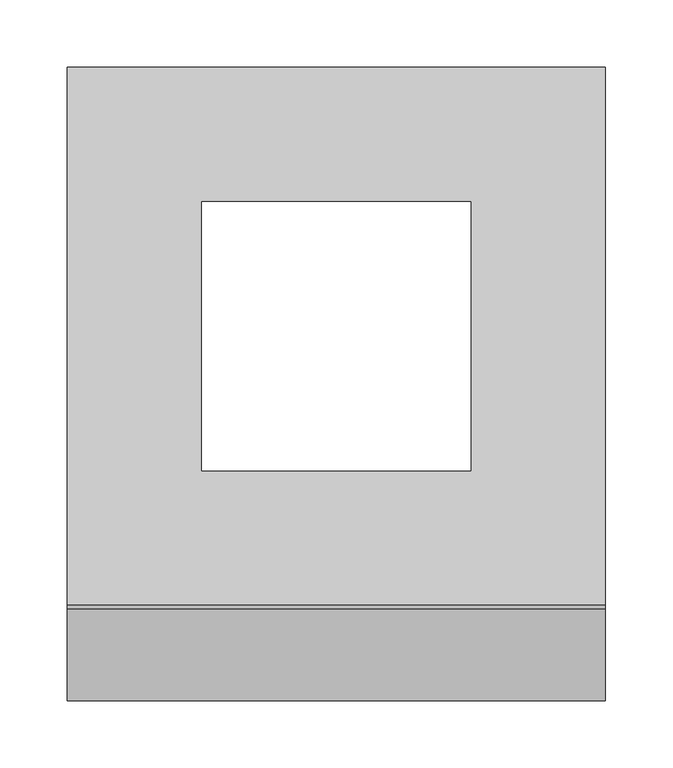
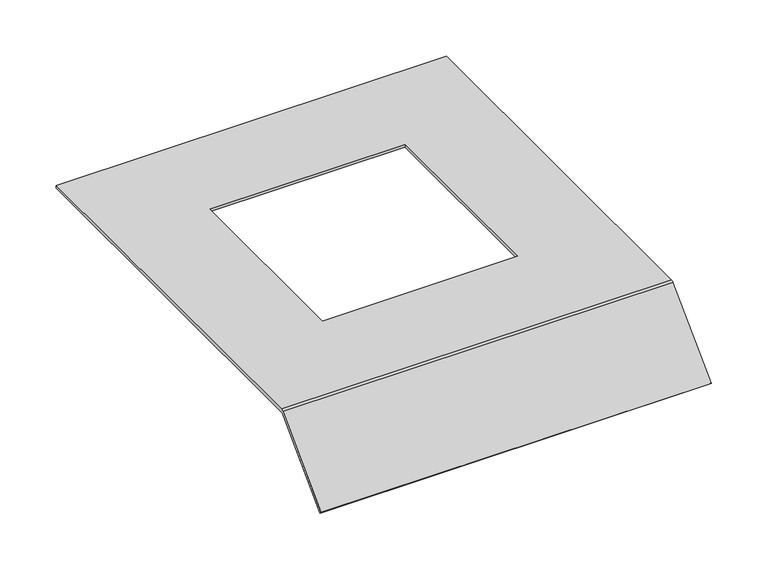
"""IFC4 building model written with IfcOpenShell, lengths in millimetres: proxy geometry, Electrical_Installation_Hager_Covers-With-Installation-Opening-Q06 : Electrical_Installation_Hager_Covers-With-Installation-Opening-Q06."""

import ifcopenshell
import ifcopenshell.guid

model = None  # the IFC model being written
_history = None  # IfcOwnerHistory: only IFC2X3 demands one
_inside = {}  # id of a spatial element -> (the spatial element, [elements in it])
_under = {}  # id of a project, library or spatial element -> (it, [spatial elements below it])
_declared = {}  # id of a project -> (the project, [libraries it declares])
_typed = {}  # id of a type object -> (the type object, [elements of that type])
_made_of = {}  # id of a material, layer set ... -> (it, [elements and type objects made of it])


def new_model(schema):
    """Start an empty IFC model of exactly this schema.

    Asked for "IFC4X3", IfcOpenShell would pick the latest addendum, in which some entities
    have other attributes; the version numbers below select the first issue.
    IFC2X3 requires an IfcOwnerHistory on every rooted entity: one is made here for all.
    """
    global model, _history
    if schema == "IFC4X3":
        model = ifcopenshell.file(schema_version=(4, 3, 0, 0))
    else:
        model = ifcopenshell.file(schema=schema)
    _inside.clear()
    _under.clear()
    _declared.clear()
    _typed.clear()
    _made_of.clear()
    _history = None
    if model.schema == "IFC2X3":
        org = make("IfcOrganization", Name="unknown")
        user = make(
            "IfcPersonAndOrganization",
            ThePerson=make("IfcPerson", FamilyName="unknown"),
            TheOrganization=org,
        )
        app = make(
            "IfcApplication",
            ApplicationDeveloper=org,
            Version="unknown",
            ApplicationFullName="unknown",
            ApplicationIdentifier="unknown",
        )
        _history = make(
            "IfcOwnerHistory",
            OwningUser=user,
            OwningApplication=app,
            ChangeAction="ADDED",
            CreationDate=0,
        )
    return model


def make(cls, **values):
    """One entity of the class cls with the attributes given. An attribute that is None is left unset."""
    return model.create_entity(
        cls, **{name: value for name, value in values.items() if value is not None}
    )


def rooted(cls, **values):
    """An entity with a GlobalId (a new one), such as an element, a storey or a relation."""
    return make(cls, GlobalId=ifcopenshell.guid.new(), OwnerHistory=_history, **values)


def si_unit(unit_type, name, prefix=None):
    """IfcSIUnit, for example si_unit("LENGTHUNIT", "METRE", prefix="MILLI")."""
    return make("IfcSIUnit", UnitType=unit_type, Prefix=prefix, Name=name)


def assignment(units):
    """IfcUnitAssignment: the units of a project."""
    return None if units is None else make("IfcUnitAssignment", Units=units)


def point(xyz):
    """IfcCartesianPoint."""
    return None if xyz is None else make("IfcCartesianPoint", Coordinates=xyz)


def direction(xyz):
    """IfcDirection."""
    return None if xyz is None else make("IfcDirection", DirectionRatios=xyz)


def frame(location, z_axis=None, x_axis=None):
    """IfcAxis2Placement3D, a coordinate frame: its origin and axes. An axis left out is left unset."""
    return make(
        "IfcAxis2Placement3D",
        Location=point(location),
        Axis=direction(z_axis),
        RefDirection=direction(x_axis),
    )


def origin():
    """The frame at (0, 0, 0) with its axes left unset."""
    return frame((0.0, 0.0, 0.0))


def place(relative_to, where):
    """IfcLocalPlacement: puts the frame where relative to a parent placement (None: the world)."""
    return make(
        "IfcLocalPlacement", PlacementRelTo=relative_to, RelativePlacement=where
    )


def context(
    kind, dimensions, precision=None, world=None, true_north=None, identifier=None
):
    """IfcGeometricRepresentationContext, for example the 3D "Model" context."""
    return make(
        "IfcGeometricRepresentationContext",
        ContextIdentifier=identifier,
        ContextType=kind,
        CoordinateSpaceDimension=dimensions,
        Precision=precision,
        WorldCoordinateSystem=world,
        TrueNorth=true_north,
    )


def project(units=None, contexts=None):
    """IfcProject with its units and contexts."""
    return rooted(
        "IfcProject",
        Name="project",
        RepresentationContexts=contexts,
        UnitsInContext=assignment(units),
    )


def spatial(cls, under=None, at=None, **own):
    """A site, building, storey or space (cls), placed at a placement, below another one or the project."""
    s = rooted(cls, ObjectPlacement=at, **own)
    if under is not None:
        _under.setdefault(under.id(), (under, []))[1].append(s)
    return s


def polyline(points):
    """IfcPolyline through the points."""
    return make("IfcPolyline", Points=[point(p) for p in points])


def circle_curve(where, radius):
    """IfcCircle in the frame where."""
    return make("IfcCircle", Position=where, Radius=radius)


def shape(context_of_items, identifier, shape_type, items):
    """IfcShapeRepresentation: the items that make up one representation, for example the "Body"."""
    return make(
        "IfcShapeRepresentation",
        ContextOfItems=context_of_items,
        RepresentationIdentifier=identifier,
        RepresentationType=shape_type,
        Items=items,
    )


def source(mapping_origin, context_of_items, identifier, shape_type, items):
    """IfcRepresentationMap: a shape defined once, which mapped items show again and again."""
    return make(
        "IfcRepresentationMap",
        MappingOrigin=mapping_origin,
        MappedRepresentation=shape(context_of_items, identifier, shape_type, items),
    )


def transform(
    local_origin,
    x_axis=None,
    y_axis=None,
    z_axis=None,
    scale=None,
    scale2=None,
    scale3=None,
    uniform=True,
):
    """IfcCartesianTransformationOperator3D, or its non-uniform kind. x_axis, y_axis, z_axis: its Axis1, 2, 3."""
    if uniform:
        return make(
            "IfcCartesianTransformationOperator3D",
            Axis1=direction(x_axis),
            Axis2=direction(y_axis),
            LocalOrigin=point(local_origin),
            Scale=scale,
            Axis3=direction(z_axis),
        )
    return make(
        "IfcCartesianTransformationOperator3DnonUniform",
        Axis1=direction(x_axis),
        Axis2=direction(y_axis),
        LocalOrigin=point(local_origin),
        Scale=scale,
        Axis3=direction(z_axis),
        Scale2=scale2,
        Scale3=scale3,
    )


def mapped(mapping_source, mapping_target):
    """IfcMappedItem: shows the shape of a source again, moved by a transform."""
    return make(
        "IfcMappedItem", MappingSource=mapping_source, MappingTarget=mapping_target
    )


def made_of(thing, what):
    """Note that an element or type object is made of a material, layer set ...; save() writes the relation."""
    if what is not None:
        _made_of.setdefault(what.id(), (what, []))[1].append(thing)
    return thing


def element(
    cls,
    number,
    at=None,
    inside=None,
    cuts=None,
    type_object=None,
    material=None,
    context=None,
    identifier="Body",
    shape_type=None,
    held_by="IfcProductDefinitionShape",
    body=None,
    shapes=None,
    **own,
):
    """One element of the class cls, such as IfcWall. Its Tag is "e" and its number.

    at: its placement. inside: the storey or other place that contains it. cuts: it is an
    opening in that element (IfcRelVoidsElement). A single representation is given by context,
    identifier, shape_type and body (its items); several are given by shapes. held_by: the class
    of the entity that holds the representations. save() writes the other relations.
    """
    e = rooted(cls, Tag="e%d" % number, ObjectPlacement=at, **own)
    if body is not None:
        shapes = [shape(context, identifier, shape_type, body)]
    if shapes is not None:
        e.Representation = make(held_by, Representations=shapes)
    if inside is not None:
        _inside.setdefault(inside.id(), (inside, []))[1].append(e)
    if cuts is not None:
        rooted(
            "IfcRelVoidsElement", RelatingBuildingElement=cuts, RelatedOpeningElement=e
        )
    if type_object is not None:
        _typed.setdefault(type_object.id(), (type_object, []))[1].append(e)
    return made_of(e, material)


def aggregate(whole, parts):
    """IfcRelAggregates: a whole, such as a stair, and the parts it consists of."""
    return rooted("IfcRelAggregates", RelatingObject=whole, RelatedObjects=parts)


def save(model, path):
    """Write the relations noted so far, then the file.

    IfcRelAggregates (storeys below a building ...), IfcRelContainedInSpatialStructure (elements
    in a storey), IfcRelDefinesByType, IfcRelAssociatesMaterial and IfcRelDeclares: one each for
    every whole, place, type object, material and project.
    """
    for whole, parts in _under.values():
        aggregate(whole, parts)
    for where, things in _inside.values():
        rooted(
            "IfcRelContainedInSpatialStructure",
            RelatedElements=things,
            RelatingStructure=where,
        )
    for kind, things in _typed.values():
        rooted("IfcRelDefinesByType", RelatedObjects=things, RelatingType=kind)
    for what, things in _made_of.values():
        rooted("IfcRelAssociatesMaterial", RelatedObjects=things, RelatingMaterial=what)
    for by, libraries in _declared.values():
        rooted("IfcRelDeclares", RelatingContext=by, RelatedDefinitions=libraries)
    model.write(path)


def plane_surface(at):
    """IfcPlane: the flat surface through the origin of the frame at, square to its z axis."""
    return make("IfcPlane", Position=at)


def cylinder_surface(at, radius):
    """IfcCylindricalSurface: all points at the distance radius from the z axis of the frame at."""
    return make("IfcCylindricalSurface", Position=at, Radius=radius)


def revolved_surface(curve, axis_point, axis_direction):
    """IfcSurfaceOfRevolution: the curve turned about the line through axis_point along axis_direction."""
    return make(
        "IfcSurfaceOfRevolution",
        SweptCurve=make("IfcArbitraryOpenProfileDef", ProfileType="CURVE", Curve=curve),
        AxisPosition=make("IfcAxis1Placement", Location=point(axis_point), Axis=direction(axis_direction)),
    )


def advanced_brep(points, edges, surfaces, faces):
    """IfcAdvancedBrep: a solid bounded by faces that lie on surfaces and meet in shared edges.

    An edge is (start, end): straight between two places in points (the first is 0);
    or (start, end, curve); or (start, end, curve, False) where it runs against its curve.
    A face is (place in surfaces, loops), or (place, loops, False) where it looks against
    its surface's normal. A loop lists edges by number (the first is 1), with a minus sign
    where the edge is run from its end to its start. The first loop is the outer one.
    """
    corners = [point(p) for p in points]
    vertices = [make("IfcVertexPoint", VertexGeometry=c) for c in corners]
    made = []
    for start, end, *more in edges:
        made.append(
            make(
                "IfcEdgeCurve",
                EdgeStart=vertices[start],
                EdgeEnd=vertices[end],
                EdgeGeometry=more[0] if more else make("IfcPolyline", Points=[corners[start], corners[end]]),
                SameSense=more[1] if len(more) > 1 else True,
            )
        )
    hull = []
    for where, loops, *sense in faces:
        bounds = []
        for j, loop in enumerate(loops):
            ring = [make("IfcOrientedEdge", EdgeElement=made[abs(k) - 1], Orientation=k > 0) for k in loop]
            bounds.append(
                make(
                    "IfcFaceOuterBound" if j == 0 else "IfcFaceBound",
                    Bound=make("IfcEdgeLoop", EdgeList=ring),
                    Orientation=True,
                )
            )
        hull.append(make("IfcAdvancedFace", Bounds=bounds, FaceSurface=surfaces[where], SameSense=sense[0] if sense else True))
    return make("IfcAdvancedBrep", Outer=make("IfcClosedShell", CfsFaces=hull))


def electrical_fixtures_748fc352(model_context):
    return source(origin(), model_context, "Body", "AdvancedBrep", [
        advanced_brep(
        [(0.0, 200.0, 40.5), (0.0, 200.0, 37.5), (0.0, -199.8229541, 37.5), (0.0, -200.8322972, 37.0819164), (0.0, -268.712807, -30.7985934), (0.0, -270.8341273, -28.6772731), (0.0, -202.8206472, 39.336207), (0.0, -200.0110025, 40.5), (400.0, 200.0, 40.5), (400.0, -200.0110025, 40.5), (400.0, -202.8206472, 39.336207), (400.0, -270.8341273, -28.6772731), (400.0, -268.712807, -30.7985934), (400.0, -200.8322972, 37.0819164), (400.0, -199.8229541, 37.5), (400.0, 200.0, 37.5), (300.0, 100.0, 37.5), (100.0, 100.0, 37.5), (100.0, -100.0, 37.5), (300.0, -100.0, 37.5), (100.0, 100.0, 40.5), (300.0, 100.0, 40.5), (300.0, -100.0, 40.5), (100.0, -100.0, 40.5)],
        [
            (0, 1),
            (1, 2),
            (2, 3, circle_curve(frame((0.0, -199.8229541, 36.0725733), z_axis=(1.0, 0.0, 0.0), x_axis=(0.0, 1.0, 0.0)), 1.4274267)),
            (3, 4),
            (4, 5),
            (5, 6),
            (6, 7, circle_curve(frame((0.0, -200.0110025, 36.5265623), z_axis=(-1.0, 0.0, 0.0), x_axis=(0.0, 1.0, 0.0)), 3.9734377)),
            (7, 0),
            (8, 9),
            (9, 10, circle_curve(frame((400.0, -200.0110025, 36.5265623), z_axis=(1.0, 0.0, 0.0), x_axis=(0.0, 1.0, 0.0)), 3.9734377)),
            (10, 11),
            (11, 12),
            (12, 13),
            (13, 14, circle_curve(frame((400.0, -199.8229541, 36.0725733), z_axis=(-1.0, 0.0, 0.0), x_axis=(0.0, 1.0, 0.0)), 1.4274267)),
            (14, 15),
            (15, 8),
            (0, 8),
            (15, 1),
            (14, 2),
            (16, 17),
            (17, 18),
            (18, 19),
            (19, 16),
            (13, 3),
            (12, 4),
            (11, 5),
            (10, 6),
            (9, 7),
            (20, 21),
            (21, 22),
            (22, 23),
            (23, 20),
            (16, 21),
            (20, 17),
            (23, 18),
            (22, 19),
        ],
        [
            plane_surface(frame((0.0, 0.3269864, 15.0), z_axis=(-1.0, 0.0, 0.0), x_axis=(0.0, 0.0, 1.0))),
            plane_surface(frame((400.0, 0.3269864, 15.0), z_axis=(1.0, 0.0, 0.0), x_axis=(0.0, 0.0, 1.0))),
            plane_surface(frame((0.0, 200.0, 40.5), z_axis=(0.0, 1.0, 0.0), x_axis=(1.0, 0.0, 0.0))),
            plane_surface(frame((0.0, 200.0, 37.5), z_axis=(0.0, 0.0, -1.0), x_axis=(1.0, 0.0, 0.0))),
            revolved_surface(polyline([(400.0, -198.3955274, 36.0725733), (0.0, -198.3955274, 36.0725733)]), (0.0, -199.8229541, 36.0725733), (1.0, 0.0, 0.0)),
            plane_surface(frame((0.0, -200.8322972, 37.0819164), z_axis=(0.0, 0.7071067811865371, -0.707106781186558), x_axis=(1.0, 0.0, 0.0))),
            plane_surface(frame((0.0, -268.712807, -30.7985934), z_axis=(0.0, -0.7071067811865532, -0.7071067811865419), x_axis=(1.0, 0.0, 0.0))),
            plane_surface(frame((0.0, -270.8341273, -28.6772731), z_axis=(0.0, -0.7071067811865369, 0.7071067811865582), x_axis=(1.0, 0.0, 0.0))),
            cylinder_surface(frame((0.0, -200.0110025, 36.5265623), z_axis=(-1.0, 0.0, 0.0), x_axis=(0.0, 1.0, 0.0)), 3.9734377),
            plane_surface(frame((0.0, -200.0110025, 40.5), z_axis=(0.0, 0.0, 1.0), x_axis=(1.0, 0.0, 0.0))),
            plane_surface(frame((300.0, 100.0, 250.0), z_axis=(0.0, -1.0, 0.0), x_axis=(0.0, 0.0, -1.0))),
            plane_surface(frame((100.0, 100.0, 250.0), z_axis=(1.0, 0.0, 0.0), x_axis=(0.0, 0.0, -1.0))),
            plane_surface(frame((100.0, -100.0, 250.0), z_axis=(0.0, 1.0, 0.0), x_axis=(0.0, 0.0, -1.0))),
            plane_surface(frame((300.0, -100.0, 250.0), z_axis=(-1.0, 0.0, 0.0), x_axis=(0.0, 0.0, -1.0))),
        ],
        [
            (0, [[1, 2, 3, 4, 5, 6, 7, 8]]),
            (1, [[9, 10, 11, 12, 13, 14, 15, 16]]),
            (2, [[-1, 17, -16, 18]]),
            (3, [[-2, -18, -15, 19], [20, 21, 22, 23]]),
            (4, [[-3, -19, -14, 24]]),
            (5, [[-4, -24, -13, 25]]),
            (6, [[-5, -25, -12, 26]]),
            (7, [[-6, -26, -11, 27]]),
            (8, [[-7, -27, -10, 28]]),
            (9, [[-8, -28, -9, -17], [29, 30, 31, 32]]),
            (10, [[33, -29, 34, -20]]),
            (11, [[-34, -32, 35, -21]]),
            (12, [[-35, -31, 36, -22]]),
            (13, [[-33, -23, -36, -30]]),
        ],
    ),
    ])


if __name__ == "__main__":
    model = new_model("IFC4")
    model_context = context("Model", 3, world=origin())
    ifc_project = project(units=[si_unit("LENGTHUNIT", "METRE", prefix="MILLI")], contexts=[model_context])
    site = spatial("IfcSite", under=ifc_project)
    building = spatial("IfcBuilding", under=site)
    placement = place(None, origin())
    electrical_fixtures_shape = electrical_fixtures_748fc352(model_context)
    element("IfcBuildingElementProxy", 1, Name="Electrical_Installation_Hager_Covers-With-Installation-Opening-Q06 : Electrical_Installation_Hager_Covers-With-Installation-Opening-Q06", ObjectType="Electrical_Installation_Hager_Covers-With-Installation-Opening-Q06 : Electrical_Installation_Hager_Covers-With-Installation-Opening-Q06", at=placement, inside=building, context=model_context, shape_type="MappedRepresentation", body=[
        mapped(electrical_fixtures_shape, transform((0.0, 0.0, 0.0), x_axis=(1.0, 0.0, 0.0), y_axis=(0.0, 1.0, 0.0), z_axis=(0.0, 0.0, 1.0))),
    ])
    save(model, "model.ifc")
